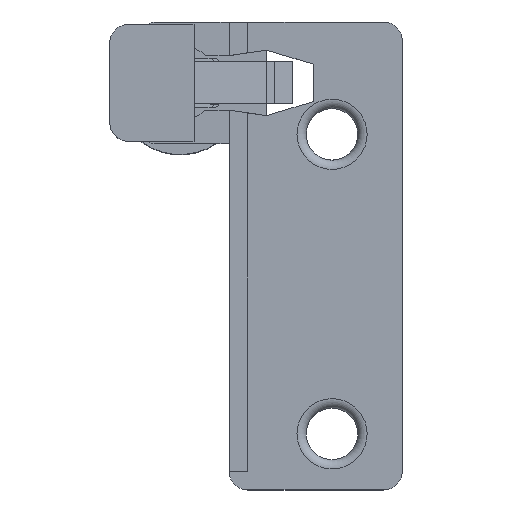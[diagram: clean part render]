
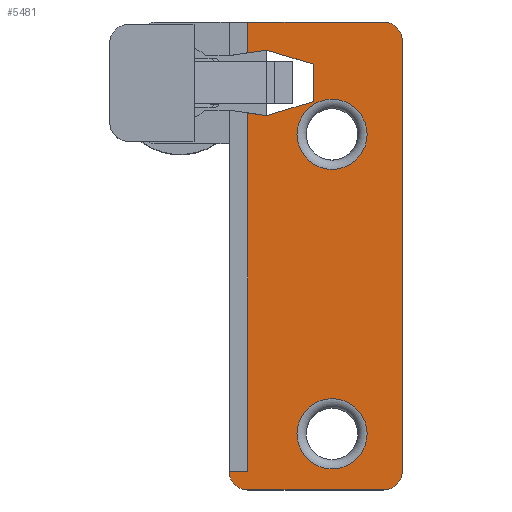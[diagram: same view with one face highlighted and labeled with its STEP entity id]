
A CAD part, top view. The second image highlights one B-rep face of the part: STEP entity #5481.
In plain terms, the highlighted planar face has unit normal (0, 0, 1) as drawn and (0, 0, -1) by its records, which use the part's own axes.
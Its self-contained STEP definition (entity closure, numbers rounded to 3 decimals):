
#252=FACE_BOUND('',#954,.T.);
#253=FACE_BOUND('',#955,.T.);
#370=PLANE('',#6009);
#649=FACE_OUTER_BOUND('',#953,.T.);
#953=EDGE_LOOP('',(#4983,#4984,#4985,#4986,#4987,#4988,#4989,#4990,#4991,
#4992,#4993,#4994,#4995,#4996));
#954=EDGE_LOOP('',(#4997));
#955=EDGE_LOOP('',(#4998));
#1131=CIRCLE('',#6010,2.);
#1132=CIRCLE('',#6011,2.);
#1133=CIRCLE('',#6012,2.);
#1134=CIRCLE('',#6013,3.75);
#1135=CIRCLE('',#6014,3.75);
#1407=LINE('',#11776,#1765);
#1411=LINE('',#11783,#1769);
#1415=LINE('',#11790,#1773);
#1457=LINE('',#11883,#1815);
#1461=LINE('',#11891,#1819);
#1473=LINE('',#11921,#1831);
#1474=LINE('',#11922,#1832);
#1475=LINE('',#11926,#1833);
#1476=LINE('',#11930,#1834);
#1477=LINE('',#11934,#1835);
#1478=LINE('',#11935,#1836);
#1765=VECTOR('',#6996,10.);
#1769=VECTOR('',#7002,10.);
#1773=VECTOR('',#7008,10.);
#1815=VECTOR('',#7082,10.);
#1819=VECTOR('',#7088,10.);
#1831=VECTOR('',#7120,10.);
#1832=VECTOR('',#7121,10.);
#1833=VECTOR('',#7124,10.);
#1834=VECTOR('',#7127,10.);
#1835=VECTOR('',#7130,10.);
#1836=VECTOR('',#7131,10.);
#2576=VERTEX_POINT('',#11773);
#2577=VERTEX_POINT('',#11775);
#2579=VERTEX_POINT('',#11781);
#2581=VERTEX_POINT('',#11788);
#2608=VERTEX_POINT('',#11864);
#2616=VERTEX_POINT('',#11882);
#2619=VERTEX_POINT('',#11890);
#2627=VERTEX_POINT('',#11920);
#2628=VERTEX_POINT('',#11923);
#2629=VERTEX_POINT('',#11925);
#2630=VERTEX_POINT('',#11927);
#2631=VERTEX_POINT('',#11929);
#2632=VERTEX_POINT('',#11931);
#2633=VERTEX_POINT('',#11933);
#2634=VERTEX_POINT('',#11936);
#2635=VERTEX_POINT('',#11938);
#3355=EDGE_CURVE('',#2577,#2576,#1407,.T.);
#3359=EDGE_CURVE('',#2576,#2579,#1411,.T.);
#3363=EDGE_CURVE('',#2579,#2581,#1415,.T.);
#3409=EDGE_CURVE('',#2616,#2577,#1457,.T.);
#3413=EDGE_CURVE('',#2581,#2619,#1461,.T.);
#3429=EDGE_CURVE('',#2619,#2627,#1473,.T.);
#3430=EDGE_CURVE('',#2627,#2608,#1474,.T.);
#3431=EDGE_CURVE('',#2628,#2608,#1131,.T.);
#3432=EDGE_CURVE('',#2628,#2629,#1475,.T.);
#3433=EDGE_CURVE('',#2630,#2629,#1132,.T.);
#3434=EDGE_CURVE('',#2630,#2631,#1476,.T.);
#3435=EDGE_CURVE('',#2632,#2631,#1133,.T.);
#3436=EDGE_CURVE('',#2632,#2633,#1477,.T.);
#3437=EDGE_CURVE('',#2633,#2616,#1478,.T.);
#3438=EDGE_CURVE('',#2634,#2634,#1134,.T.);
#3439=EDGE_CURVE('',#2635,#2635,#1135,.T.);
#4983=ORIENTED_EDGE('',*,*,#3409,.T.);
#4984=ORIENTED_EDGE('',*,*,#3355,.T.);
#4985=ORIENTED_EDGE('',*,*,#3359,.T.);
#4986=ORIENTED_EDGE('',*,*,#3363,.T.);
#4987=ORIENTED_EDGE('',*,*,#3413,.T.);
#4988=ORIENTED_EDGE('',*,*,#3429,.T.);
#4989=ORIENTED_EDGE('',*,*,#3430,.T.);
#4990=ORIENTED_EDGE('',*,*,#3431,.F.);
#4991=ORIENTED_EDGE('',*,*,#3432,.T.);
#4992=ORIENTED_EDGE('',*,*,#3433,.F.);
#4993=ORIENTED_EDGE('',*,*,#3434,.T.);
#4994=ORIENTED_EDGE('',*,*,#3435,.F.);
#4995=ORIENTED_EDGE('',*,*,#3436,.T.);
#4996=ORIENTED_EDGE('',*,*,#3437,.T.);
#4997=ORIENTED_EDGE('',*,*,#3438,.F.);
#4998=ORIENTED_EDGE('',*,*,#3439,.F.);
#5481=ADVANCED_FACE('',(#649,#252,#253),#370,.T.);
#6009=AXIS2_PLACEMENT_3D('',#11919,#7118,#7119);
#6010=AXIS2_PLACEMENT_3D('',#11924,#7122,#7123);
#6011=AXIS2_PLACEMENT_3D('',#11928,#7125,#7126);
#6012=AXIS2_PLACEMENT_3D('',#11932,#7128,#7129);
#6013=AXIS2_PLACEMENT_3D('',#11937,#7132,#7133);
#6014=AXIS2_PLACEMENT_3D('',#11939,#7134,#7135);
#6996=DIRECTION('',(0.287,-0.958,0.));
#7002=DIRECTION('',(1.,0.,0.));
#7008=DIRECTION('',(0.287,0.958,0.));
#7082=DIRECTION('',(-0.145,-0.989,0.));
#7088=DIRECTION('',(-0.145,0.989,0.));
#7118=DIRECTION('center_axis',(0.,0.,-1.));
#7119=DIRECTION('ref_axis',(-1.,0.,0.));
#7120=DIRECTION('',(1.,0.,0.));
#7121=DIRECTION('',(0.,1.,0.));
#7122=DIRECTION('center_axis',(0.,0.,1.));
#7123=DIRECTION('ref_axis',(0.707,0.707,0.));
#7124=DIRECTION('',(0.,-1.,0.));
#7125=DIRECTION('center_axis',(0.,0.,1.));
#7126=DIRECTION('ref_axis',(0.707,-0.707,0.));
#7127=DIRECTION('',(-1.,0.,0.));
#7128=DIRECTION('center_axis',(0.,0.,1.));
#7129=DIRECTION('ref_axis',(-0.707,-0.707,0.));
#7130=DIRECTION('',(0.,1.,0.));
#7131=DIRECTION('',(1.,0.,0.));
#7132=DIRECTION('center_axis',(0.,0.,-1.));
#7133=DIRECTION('ref_axis',(1.,0.,0.));
#7134=DIRECTION('center_axis',(0.,0.,-1.));
#7135=DIRECTION('ref_axis',(1.,0.,0.));
#11773=CARTESIAN_POINT('',(-20.5,0.25,-1.5));
#11775=CARTESIAN_POINT('',(-22.,5.25,-1.5));
#11776=CARTESIAN_POINT('',(-19.619,-2.686,-1.5));
#11781=CARTESIAN_POINT('',(-16.5,0.25,-1.5));
#11783=CARTESIAN_POINT('',(-8.25,0.25,-1.5));
#11788=CARTESIAN_POINT('',(-15.,5.25,-1.5));
#11790=CARTESIAN_POINT('',(-15.103,4.906,-1.5));
#11864=CARTESIAN_POINT('',(23.,9.25,-1.5));
#11882=CARTESIAN_POINT('',(-21.707,7.25,-1.5));
#11883=CARTESIAN_POINT('',(-22.145,4.258,-1.5));
#11890=CARTESIAN_POINT('',(-15.293,7.25,-1.5));
#11891=CARTESIAN_POINT('',(-14.766,3.652,-1.5));
#11919=CARTESIAN_POINT('Origin',(0.,0.,
-1.5));
#11920=CARTESIAN_POINT('',(23.,7.25,-1.5));
#11921=CARTESIAN_POINT('',(-12.5,7.25,-1.5));
#11922=CARTESIAN_POINT('',(23.,3.625,-1.5));
#11923=CARTESIAN_POINT('',(25.,7.25,-1.5));
#11924=CARTESIAN_POINT('Origin',(23.,7.25,-1.5));
#11925=CARTESIAN_POINT('',(25.,-7.25,-1.5));
#11926=CARTESIAN_POINT('',(25.,-9.25,-1.5));
#11927=CARTESIAN_POINT('',(23.,-9.25,-1.5));
#11928=CARTESIAN_POINT('Origin',(23.,-7.25,-1.5));
#11929=CARTESIAN_POINT('',(-23.,-9.25,-1.5));
#11930=CARTESIAN_POINT('',(-25.,-9.25,-1.5));
#11931=CARTESIAN_POINT('',(-25.,-7.25,-1.5));
#11932=CARTESIAN_POINT('Origin',(-23.,-7.25,-1.5));
#11933=CARTESIAN_POINT('',(-25.,7.25,-1.5));
#11934=CARTESIAN_POINT('',(-25.,9.25,-1.5));
#11935=CARTESIAN_POINT('',(-12.5,7.25,-1.5));
#11936=CARTESIAN_POINT('',(15.25,-1.75,-1.5));
#11937=CARTESIAN_POINT('Origin',(19.,-1.75,-1.5));
#11938=CARTESIAN_POINT('',(-16.75,-1.75,-1.5));
#11939=CARTESIAN_POINT('Origin',(-13.,-1.75,-1.5));
